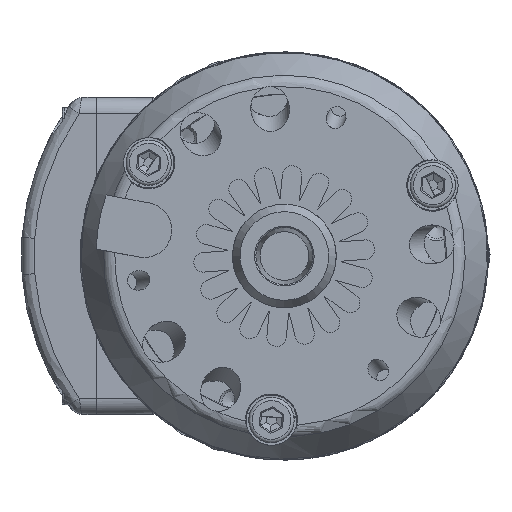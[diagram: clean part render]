
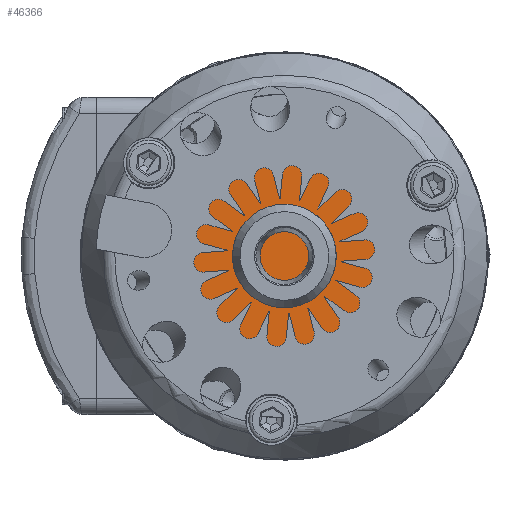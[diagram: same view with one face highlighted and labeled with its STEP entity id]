
A CAD part, front view. The second image highlights one B-rep face of the part: STEP entity #46366.
In plain terms, the highlighted planar face has unit normal (0, -1, 0).
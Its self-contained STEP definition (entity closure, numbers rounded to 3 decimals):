
#2068 = DIRECTION ( 'NONE',  ( 0., -1., 0. ) ) ;
#3108 = VERTEX_POINT ( 'NONE', #28161 ) ;
#6552 = ORIENTED_EDGE ( 'NONE', *, *, #20934, .T. ) ;
#9153 = AXIS2_PLACEMENT_3D ( 'NONE', #27073, #16356, #28852 ) ;
#16356 = DIRECTION ( 'NONE',  ( 0., 1., 0. ) ) ;
#20934 = EDGE_CURVE ( 'NONE', #3108, #3108, #32516, .T. ) ;
#23010 = PLANE ( 'NONE',  #9153 ) ;
#23537 = FACE_OUTER_BOUND ( 'NONE', #26057, .T. ) ;
#26057 = EDGE_LOOP ( 'NONE', ( #6552 ) ) ;
#27073 = CARTESIAN_POINT ( 'NONE',  ( 0., 54.7, 18.498 ) ) ;
#28161 = CARTESIAN_POINT ( 'NONE',  ( -18.498, 54.7, 0. ) ) ;
#28852 = DIRECTION ( 'NONE',  ( 1., 0., 0. ) ) ;
#31629 = AXIS2_PLACEMENT_3D ( 'NONE', #39926, #2068, #51910 ) ;
#32516 = CIRCLE ( 'NONE', #31629, 18.498 ) ;
#39926 = CARTESIAN_POINT ( 'NONE',  ( 0., 54.7, 0. ) ) ;
#46366 = ADVANCED_FACE ( 'NONE', ( #23537 ), #23010, .F. ) ;
#51910 = DIRECTION ( 'NONE',  ( -1., 0., 0. ) ) ;
